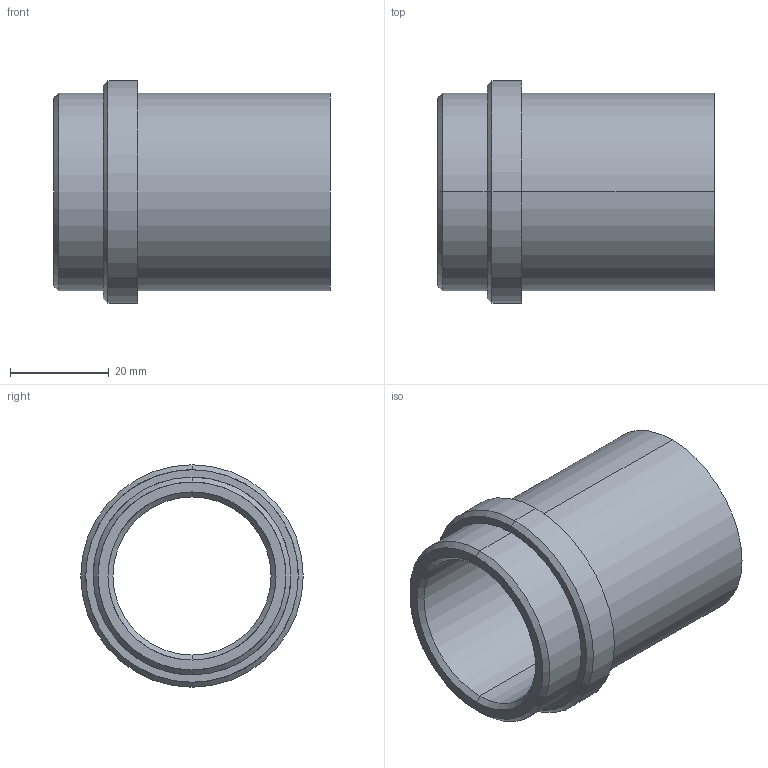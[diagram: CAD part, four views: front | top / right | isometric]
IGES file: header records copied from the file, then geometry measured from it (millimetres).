
Start section: START RECORD GO HERE.
Global section: file name: 358-32x56.igs; native system: DASSAULT SYSTEMES CATIA V5 R20 - www.3ds.com; preprocessor: CATIA Version 5 Release 20 ; author: Utente; organization: NB04-ASUS; date: 20210409.151710; units: millimetre
Bounding box: 56 x 45 x 45 mm (x, y, z)
Surface area: 14048.1 mm2 (no closed solid volume)
Topology: 0 solids, 0 shells, 20 faces, 128 edges, 128 vertices
Faces by surface type: revolution 16, plane 4
